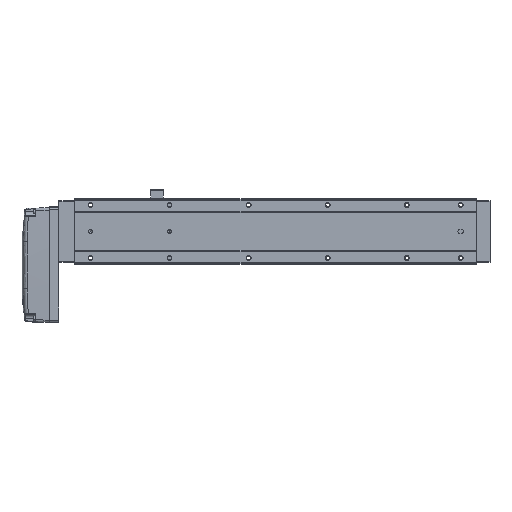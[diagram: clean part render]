
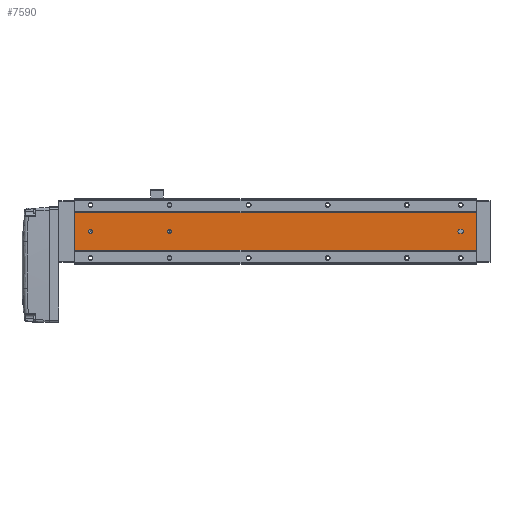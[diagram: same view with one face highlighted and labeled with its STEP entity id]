
A CAD part, front view. The second image highlights one B-rep face of the part: STEP entity #7590.
In plain terms, the highlighted planar face has unit normal (0, -1, 0).
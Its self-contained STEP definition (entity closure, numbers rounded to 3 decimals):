
#269 = CARTESIAN_POINT ( 'NONE',  ( 489., 1., 0. ) ) ;
#650 = CARTESIAN_POINT ( 'NONE',  ( 20., 1., 0. ) ) ;
#1111 = EDGE_CURVE ( 'NONE', #1412, #12440, #19077, .T. ) ;
#1412 = VERTEX_POINT ( 'NONE', #18036 ) ;
#1468 = VECTOR ( 'NONE', #19178, 1000. ) ;
#2169 = CARTESIAN_POINT ( 'NONE',  ( 508., 1., 23.876 ) ) ;
#3031 = FACE_BOUND ( 'NONE', #22014, .T. ) ;
#3175 = DIRECTION ( 'NONE',  ( -1., 0., 0. ) ) ;
#3284 = AXIS2_PLACEMENT_3D ( 'NONE', #7301, #12362, #32274 ) ;
#3367 = DIRECTION ( 'NONE',  ( -1., 0., 0. ) ) ;
#3491 = EDGE_CURVE ( 'NONE', #12440, #1412, #33185, .T. ) ;
#3813 = CARTESIAN_POINT ( 'NONE',  ( 120., 1., -2.5 ) ) ;
#4466 = ORIENTED_EDGE ( 'NONE', *, *, #7196, .F. ) ;
#4583 = VERTEX_POINT ( 'NONE', #22531 ) ;
#4680 = VERTEX_POINT ( 'NONE', #5868 ) ;
#4944 = DIRECTION ( 'NONE',  ( 0., -1., 0. ) ) ;
#5429 = CARTESIAN_POINT ( 'NONE',  ( 487., 1., -2.5 ) ) ;
#5521 = CARTESIAN_POINT ( 'NONE',  ( 508., 1., 2.5 ) ) ;
#5556 = DIRECTION ( 'NONE',  ( 0., -1., 0. ) ) ;
#5868 = CARTESIAN_POINT ( 'NONE',  ( 0., 1., 23.876 ) ) ;
#5959 = CIRCLE ( 'NONE', #3284, 2.5 ) ;
#6185 = LINE ( 'NONE', #5521, #20961 ) ;
#6215 = CARTESIAN_POINT ( 'NONE',  ( 508., 1., -23.876 ) ) ;
#6387 = LINE ( 'NONE', #6215, #26437 ) ;
#7196 = EDGE_CURVE ( 'NONE', #11530, #32545, #31653, .T. ) ;
#7301 = CARTESIAN_POINT ( 'NONE',  ( 487., 1., 0. ) ) ;
#7470 = ORIENTED_EDGE ( 'NONE', *, *, #7769, .F. ) ;
#7590 = ADVANCED_FACE ( 'NONE', ( #29096, #21520, #3031, #28936 ), #18683, .T. ) ;
#7659 = CARTESIAN_POINT ( 'NONE',  ( 120., 1., 0. ) ) ;
#7769 = EDGE_CURVE ( 'NONE', #4583, #11530, #5959, .T. ) ;
#7971 = DIRECTION ( 'NONE',  ( 0., 0., -1. ) ) ;
#7986 = CIRCLE ( 'NONE', #21417, 2.5 ) ;
#8874 = CARTESIAN_POINT ( 'NONE',  ( 489., 1., 2.5 ) ) ;
#9532 = DIRECTION ( 'NONE',  ( -1., 0., 0. ) ) ;
#9748 = CARTESIAN_POINT ( 'NONE',  ( 0., 1., -23.876 ) ) ;
#10103 = AXIS2_PLACEMENT_3D ( 'NONE', #650, #13409, #23699 ) ;
#11255 = ORIENTED_EDGE ( 'NONE', *, *, #33012, .F. ) ;
#11264 = CARTESIAN_POINT ( 'NONE',  ( 508., 1., -23.876 ) ) ;
#11277 = CARTESIAN_POINT ( 'NONE',  ( 120., 1., 0. ) ) ;
#11279 = CARTESIAN_POINT ( 'NONE',  ( 0., 1., -23.876 ) ) ;
#11297 = DIRECTION ( 'NONE',  ( 1., 0., 0. ) ) ;
#11530 = VERTEX_POINT ( 'NONE', #5429 ) ;
#12096 = EDGE_CURVE ( 'NONE', #29849, #31197, #29116, .T. ) ;
#12362 = DIRECTION ( 'NONE',  ( 0., -1., 0. ) ) ;
#12440 = VERTEX_POINT ( 'NONE', #16192 ) ;
#12457 = AXIS2_PLACEMENT_3D ( 'NONE', #11277, #23601, #28955 ) ;
#12956 = AXIS2_PLACEMENT_3D ( 'NONE', #31293, #5556, #18522 ) ;
#13409 = DIRECTION ( 'NONE',  ( 0., -1., 0. ) ) ;
#14499 = AXIS2_PLACEMENT_3D ( 'NONE', #7659, #15578, #18105 ) ;
#15222 = DIRECTION ( 'NONE',  ( 0., 0., -1. ) ) ;
#15578 = DIRECTION ( 'NONE',  ( 0., -1., 0. ) ) ;
#16153 = LINE ( 'NONE', #11279, #1468 ) ;
#16192 = CARTESIAN_POINT ( 'NONE',  ( 20., 1., -2.5 ) ) ;
#16699 = EDGE_LOOP ( 'NONE', ( #4466, #7470, #11255, #25655 ) ) ;
#17012 = LINE ( 'NONE', #17975, #30108 ) ;
#17208 = VECTOR ( 'NONE', #11297, 1000. ) ;
#17843 = EDGE_CURVE ( 'NONE', #18838, #4680, #16153, .T. ) ;
#17963 = ORIENTED_EDGE ( 'NONE', *, *, #1111, .F. ) ;
#17975 = CARTESIAN_POINT ( 'NONE',  ( 508., 1., -23.876 ) ) ;
#18036 = CARTESIAN_POINT ( 'NONE',  ( 20., 1., 2.5 ) ) ;
#18105 = DIRECTION ( 'NONE',  ( 0., 0., -1. ) ) ;
#18173 = VERTEX_POINT ( 'NONE', #8874 ) ;
#18522 = DIRECTION ( 'NONE',  ( 0., 0., -1. ) ) ;
#18683 = PLANE ( 'NONE',  #12956 ) ;
#18838 = VERTEX_POINT ( 'NONE', #9748 ) ;
#18923 = ORIENTED_EDGE ( 'NONE', *, *, #31450, .T. ) ;
#19077 = CIRCLE ( 'NONE', #32506, 2.5 ) ;
#19178 = DIRECTION ( 'NONE',  ( 0., 0., 1. ) ) ;
#19471 = EDGE_CURVE ( 'NONE', #32545, #18173, #7986, .T. ) ;
#20961 = VECTOR ( 'NONE', #3175, 1000. ) ;
#21417 = AXIS2_PLACEMENT_3D ( 'NONE', #269, #30679, #7971 ) ;
#21487 = VERTEX_POINT ( 'NONE', #2169 ) ;
#21520 = FACE_BOUND ( 'NONE', #23495, .T. ) ;
#21638 = ORIENTED_EDGE ( 'NONE', *, *, #17843, .F. ) ;
#22014 = EDGE_LOOP ( 'NONE', ( #28127, #22118 ) ) ;
#22118 = ORIENTED_EDGE ( 'NONE', *, *, #33247, .F. ) ;
#22197 = CARTESIAN_POINT ( 'NONE',  ( 120., 1., 2.5 ) ) ;
#22339 = VECTOR ( 'NONE', #9532, 1000. ) ;
#22531 = CARTESIAN_POINT ( 'NONE',  ( 487., 1., 2.5 ) ) ;
#22897 = ORIENTED_EDGE ( 'NONE', *, *, #28187, .F. ) ;
#23029 = EDGE_LOOP ( 'NONE', ( #21638, #22897, #24882, #18923 ) ) ;
#23495 = EDGE_LOOP ( 'NONE', ( #23593, #17963 ) ) ;
#23527 = EDGE_CURVE ( 'NONE', #29054, #21487, #17012, .T. ) ;
#23593 = ORIENTED_EDGE ( 'NONE', *, *, #3491, .F. ) ;
#23601 = DIRECTION ( 'NONE',  ( 0., -1., 0. ) ) ;
#23699 = DIRECTION ( 'NONE',  ( 0., 0., -1. ) ) ;
#24882 = ORIENTED_EDGE ( 'NONE', *, *, #23527, .T. ) ;
#25655 = ORIENTED_EDGE ( 'NONE', *, *, #19471, .F. ) ;
#26302 = CARTESIAN_POINT ( 'NONE',  ( 508., 1., -2.5 ) ) ;
#26365 = CIRCLE ( 'NONE', #14499, 2.5 ) ;
#26437 = VECTOR ( 'NONE', #3367, 1000. ) ;
#26516 = CARTESIAN_POINT ( 'NONE',  ( 489., 1., -2.5 ) ) ;
#27300 = DIRECTION ( 'NONE',  ( 0., 0., 1. ) ) ;
#28017 = CARTESIAN_POINT ( 'NONE',  ( 20., 1., 0. ) ) ;
#28127 = ORIENTED_EDGE ( 'NONE', *, *, #12096, .F. ) ;
#28187 = EDGE_CURVE ( 'NONE', #29054, #18838, #6387, .T. ) ;
#28936 = FACE_OUTER_BOUND ( 'NONE', #23029, .T. ) ;
#28955 = DIRECTION ( 'NONE',  ( 0., 0., -1. ) ) ;
#29054 = VERTEX_POINT ( 'NONE', #11264 ) ;
#29096 = FACE_BOUND ( 'NONE', #16699, .T. ) ;
#29116 = CIRCLE ( 'NONE', #12457, 2.5 ) ;
#29849 = VERTEX_POINT ( 'NONE', #3813 ) ;
#29884 = LINE ( 'NONE', #32566, #22339 ) ;
#30108 = VECTOR ( 'NONE', #27300, 1000. ) ;
#30679 = DIRECTION ( 'NONE',  ( 0., -1., 0. ) ) ;
#31197 = VERTEX_POINT ( 'NONE', #22197 ) ;
#31293 = CARTESIAN_POINT ( 'NONE',  ( 508., 1., -23.876 ) ) ;
#31450 = EDGE_CURVE ( 'NONE', #21487, #4680, #29884, .T. ) ;
#31653 = LINE ( 'NONE', #26302, #17208 ) ;
#32274 = DIRECTION ( 'NONE',  ( 0., 0., -1. ) ) ;
#32506 = AXIS2_PLACEMENT_3D ( 'NONE', #28017, #4944, #15222 ) ;
#32545 = VERTEX_POINT ( 'NONE', #26516 ) ;
#32566 = CARTESIAN_POINT ( 'NONE',  ( 508., 1., 23.876 ) ) ;
#33012 = EDGE_CURVE ( 'NONE', #18173, #4583, #6185, .T. ) ;
#33185 = CIRCLE ( 'NONE', #10103, 2.5 ) ;
#33247 = EDGE_CURVE ( 'NONE', #31197, #29849, #26365, .T. ) ;
